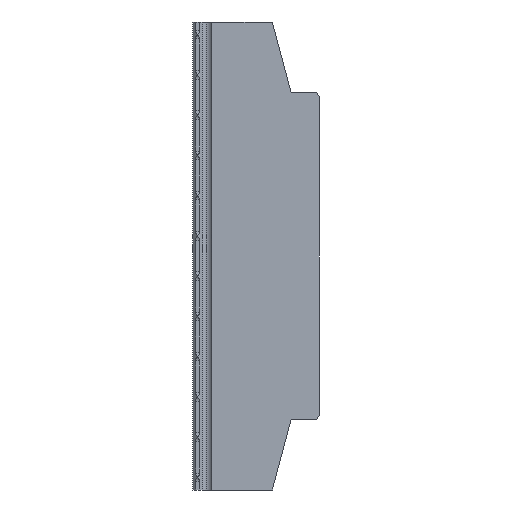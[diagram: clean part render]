
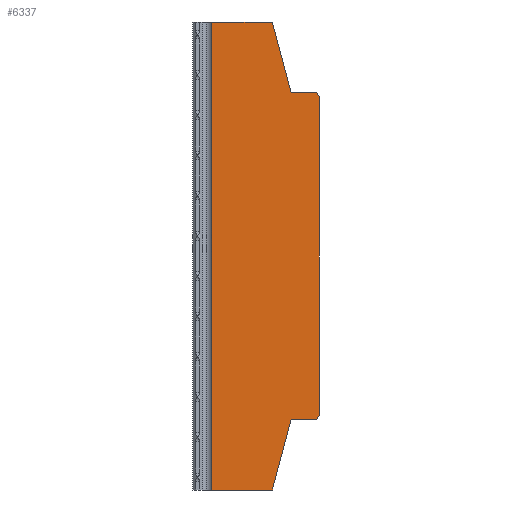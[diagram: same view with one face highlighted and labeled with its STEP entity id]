
A CAD part, left-side view. The second image highlights one B-rep face of the part: STEP entity #6337.
In plain terms, the highlighted planar face has unit normal (-1, 0, 0).
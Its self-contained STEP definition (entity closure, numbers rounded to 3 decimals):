
#306 = VERTEX_POINT ( 'NONE', #1517 ) ;
#376 = VECTOR ( 'NONE', #11330, 1000. ) ;
#488 = CARTESIAN_POINT ( 'NONE',  ( -20.5, -16., 35. ) ) ;
#716 = VECTOR ( 'NONE', #12098, 1000. ) ;
#875 = CARTESIAN_POINT ( 'NONE',  ( -20.5, -22., -35. ) ) ;
#893 = VERTEX_POINT ( 'NONE', #4765 ) ;
#1030 = LINE ( 'NONE', #875, #13360 ) ;
#1155 = EDGE_CURVE ( 'NONE', #13795, #7865, #9097, .T. ) ;
#1423 = CARTESIAN_POINT ( 'NONE',  ( -20.5, -12., -50. ) ) ;
#1517 = CARTESIAN_POINT ( 'NONE',  ( -20.5, -22., 34. ) ) ;
#1593 = VECTOR ( 'NONE', #11915, 1000. ) ;
#1727 = VERTEX_POINT ( 'NONE', #1423 ) ;
#1951 = VECTOR ( 'NONE', #5348, 1000. ) ;
#1992 = DIRECTION ( 'NONE',  ( 0., 0.5, 0.866 ) ) ;
#2348 = EDGE_CURVE ( 'NONE', #1727, #893, #12815, .T. ) ;
#2383 = DIRECTION ( 'NONE',  ( 0., -1., 0. ) ) ;
#2901 = EDGE_CURVE ( 'NONE', #13795, #1727, #13020, .T. ) ;
#2962 = EDGE_LOOP ( 'NONE', ( #12534, #10521, #6331, #6444, #15041, #6866, #11222, #13576, #7300, #14809 ) ) ;
#3511 = VECTOR ( 'NONE', #8549, 1000. ) ;
#3745 = CARTESIAN_POINT ( 'NONE',  ( -20.5, -22., -50. ) ) ;
#3850 = CARTESIAN_POINT ( 'NONE',  ( -20.5, -12., 50. ) ) ;
#4021 = CARTESIAN_POINT ( 'NONE',  ( -20.5, -16., -35. ) ) ;
#4094 = CARTESIAN_POINT ( 'NONE',  ( -20.5, -16., 35. ) ) ;
#4388 = VERTEX_POINT ( 'NONE', #8040 ) ;
#4442 = CARTESIAN_POINT ( 'NONE',  ( -20.5, -22., 50. ) ) ;
#4634 = EDGE_CURVE ( 'NONE', #893, #12034, #1030, .T. ) ;
#4744 = CARTESIAN_POINT ( 'NONE',  ( -20.5, -22., -34. ) ) ;
#4765 = CARTESIAN_POINT ( 'NONE',  ( -20.5, -16., -35. ) ) ;
#5041 = VECTOR ( 'NONE', #8892, 1000. ) ;
#5118 = CARTESIAN_POINT ( 'NONE',  ( -20.5, -12., 50. ) ) ;
#5199 = VECTOR ( 'NONE', #9892, 1000. ) ;
#5306 = CARTESIAN_POINT ( 'NONE',  ( -20.5, -21.423, -35. ) ) ;
#5317 = CARTESIAN_POINT ( 'NONE',  ( -20.5, -22., 50. ) ) ;
#5348 = DIRECTION ( 'NONE',  ( 0., -0.5, 0.866 ) ) ;
#5410 = VECTOR ( 'NONE', #8364, 1000. ) ;
#5556 = EDGE_CURVE ( 'NONE', #306, #4388, #13670, .T. ) ;
#5578 = LINE ( 'NONE', #5317, #5041 ) ;
#5945 = CARTESIAN_POINT ( 'NONE',  ( -20.5, 1., -50. ) ) ;
#6045 = VERTEX_POINT ( 'NONE', #4744 ) ;
#6331 = ORIENTED_EDGE ( 'NONE', *, *, #6760, .T. ) ;
#6337 = ADVANCED_FACE ( 'NONE', ( #11774 ), #14649, .F. ) ;
#6383 = DIRECTION ( 'NONE',  ( 0., 0., -1. ) ) ;
#6444 = ORIENTED_EDGE ( 'NONE', *, *, #7331, .T. ) ;
#6760 = EDGE_CURVE ( 'NONE', #4388, #14106, #13053, .T. ) ;
#6866 = ORIENTED_EDGE ( 'NONE', *, *, #1155, .F. ) ;
#7300 = ORIENTED_EDGE ( 'NONE', *, *, #4634, .T. ) ;
#7331 = EDGE_CURVE ( 'NONE', #14106, #11397, #8920, .T. ) ;
#7567 = CARTESIAN_POINT ( 'NONE',  ( -20.5, -22., 50. ) ) ;
#7865 = VERTEX_POINT ( 'NONE', #8470 ) ;
#7937 = LINE ( 'NONE', #4442, #1593 ) ;
#8040 = CARTESIAN_POINT ( 'NONE',  ( -20.5, -21.423, 35. ) ) ;
#8364 = DIRECTION ( 'NONE',  ( 0., 0., 1. ) ) ;
#8390 = AXIS2_PLACEMENT_3D ( 'NONE', #7567, #8703, #6383 ) ;
#8470 = CARTESIAN_POINT ( 'NONE',  ( -20.5, 1., 50. ) ) ;
#8549 = DIRECTION ( 'NONE',  ( 0., 0.258, 0.966 ) ) ;
#8703 = DIRECTION ( 'NONE',  ( 1., 0., 0. ) ) ;
#8892 = DIRECTION ( 'NONE',  ( 0., 0., -1. ) ) ;
#8920 = LINE ( 'NONE', #3850, #3511 ) ;
#9097 = LINE ( 'NONE', #14306, #5410 ) ;
#9892 = DIRECTION ( 'NONE',  ( 0., -0.258, 0.966 ) ) ;
#10459 = VECTOR ( 'NONE', #1992, 1000. ) ;
#10521 = ORIENTED_EDGE ( 'NONE', *, *, #5556, .T. ) ;
#11222 = ORIENTED_EDGE ( 'NONE', *, *, #2901, .T. ) ;
#11276 = CARTESIAN_POINT ( 'NONE',  ( -20.5, -22., -34. ) ) ;
#11330 = DIRECTION ( 'NONE',  ( 0., 1., 0. ) ) ;
#11397 = VERTEX_POINT ( 'NONE', #5118 ) ;
#11448 = EDGE_CURVE ( 'NONE', #306, #6045, #5578, .T. ) ;
#11774 = FACE_OUTER_BOUND ( 'NONE', #2962, .T. ) ;
#11915 = DIRECTION ( 'NONE',  ( 0., -1., 0. ) ) ;
#12034 = VERTEX_POINT ( 'NONE', #5306 ) ;
#12098 = DIRECTION ( 'NONE',  ( 0., -1., 0. ) ) ;
#12534 = ORIENTED_EDGE ( 'NONE', *, *, #11448, .F. ) ;
#12815 = LINE ( 'NONE', #4021, #5199 ) ;
#13020 = LINE ( 'NONE', #3745, #716 ) ;
#13053 = LINE ( 'NONE', #488, #376 ) ;
#13360 = VECTOR ( 'NONE', #2383, 1000. ) ;
#13576 = ORIENTED_EDGE ( 'NONE', *, *, #2348, .T. ) ;
#13670 = LINE ( 'NONE', #14980, #10459 ) ;
#13795 = VERTEX_POINT ( 'NONE', #5945 ) ;
#14106 = VERTEX_POINT ( 'NONE', #4094 ) ;
#14122 = EDGE_CURVE ( 'NONE', #12034, #6045, #14462, .T. ) ;
#14306 = CARTESIAN_POINT ( 'NONE',  ( -20.5, 1., -50. ) ) ;
#14316 = EDGE_CURVE ( 'NONE', #7865, #11397, #7937, .T. ) ;
#14462 = LINE ( 'NONE', #11276, #1951 ) ;
#14649 = PLANE ( 'NONE',  #8390 ) ;
#14809 = ORIENTED_EDGE ( 'NONE', *, *, #14122, .T. ) ;
#14980 = CARTESIAN_POINT ( 'NONE',  ( -20.5, -21.423, 35. ) ) ;
#15041 = ORIENTED_EDGE ( 'NONE', *, *, #14316, .F. ) ;
